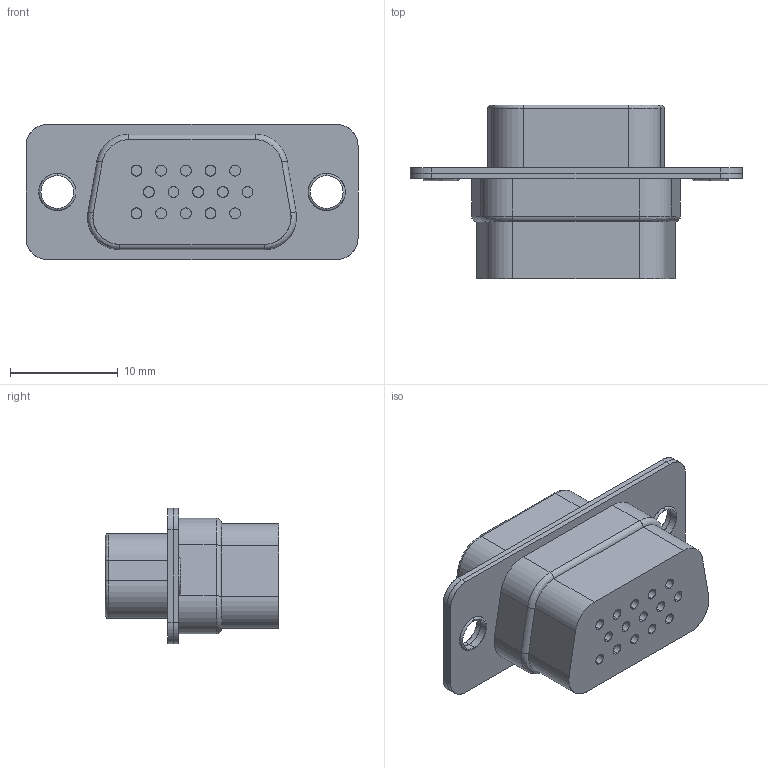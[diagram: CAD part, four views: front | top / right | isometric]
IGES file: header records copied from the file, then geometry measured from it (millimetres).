
Start section: SolidWorks IGES file using analytic representation for surfaces
Global section: file name: G:\rd03\3DS\7918-15FTBA\7918-15FTBA.IGS; native system: SolidWorks 2011; preprocessor: SolidWorks 2011; author: rd03; date: 150708.131914; units: millimetre
Bounding box: 30.81 x 16.1 x 12.55 mm (x, y, z)
Surface area: 3258 mm2 (no closed solid volume)
Topology: 0 solids, 0 shells, 224 faces, 2976 edges, 2976 vertices
Faces by surface type: revolution 156, bspline 68
